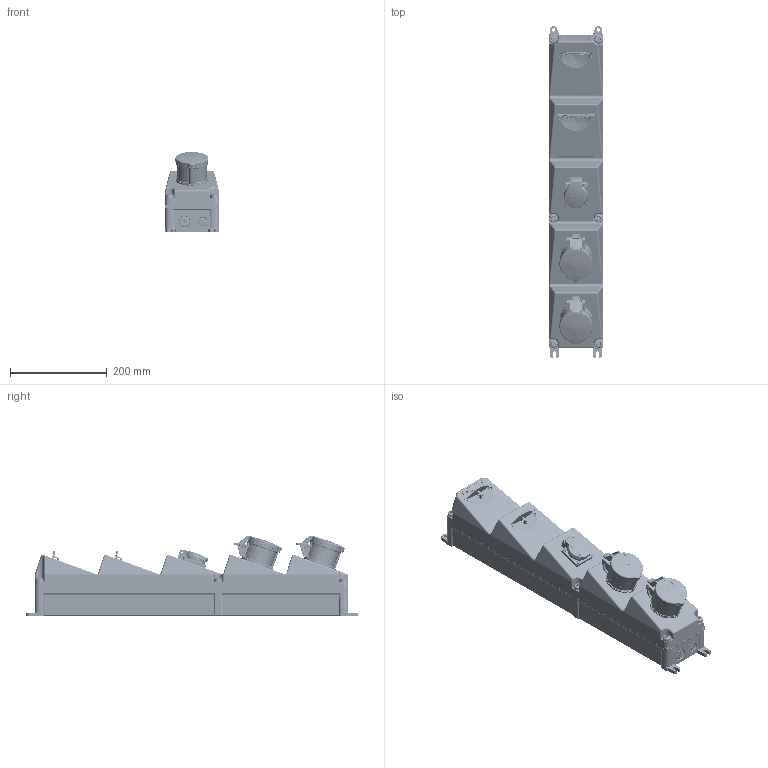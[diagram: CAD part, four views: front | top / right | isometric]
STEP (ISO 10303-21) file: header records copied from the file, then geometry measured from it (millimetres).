
FILE_DESCRIPTION((''),'2;1');
FILE_NAME('960007-1_ASM_1_ASM','2017-11-27T',('kremer'),('MENNEKES'),'PRO/ENGINEER BY PARAMETRIC TECHNOLOGY CORPORATION, 2015440','PRO/ENGINEER BY PARAMETRIC TECHNOLOGY CORPORATION, 2015440','');
FILE_SCHEMA(('AUTOMOTIVE_DESIGN { 1 0 10303 214 1 1 1 1 }'));
Products named in the file (7): S_SW_O_GRAU_AF0_1; LS_3POL_3TE_1; LS_1POL_1TE_1; S_FEN4_44_GRAU_1; RAPIDO_16_5_44_61_ROT_1; 4LOCH_SCHUKO_44_BLAU_1; 960007-1_ASM_1_ASM
Assembly tree (9 placements, depth 2):
  960007-1_ASM_1_ASM
    S_SW_O_GRAU_AF0_1
    LS_3POL_3TE_1  x2
    LS_1POL_1TE_1
    S_FEN4_44_GRAU_1  x2
    RAPIDO_16_5_44_61_ROT_1  x2
    4LOCH_SCHUKO_44_BLAU_1
Bounding box: 113.06 x 688.04 x 167.83 mm (x, y, z)
Volume: 8230260.8 mm3; surface area: 640058.3 mm2
Topology: 9 solids, 9 shells, 7964 faces, 21719 edges, 13776 vertices
Faces by surface type: plane 3024, cylinder 2530, bspline 1004, torus 910, cone 241, sphere 154, extrusion 101
Entity records: 306049 total; most frequent: CARTESIAN_POINT 89369, ORIENTED_EDGE 33202, DIRECTION 28600, PRESENTATION_STYLE_ASSIGNMENT 16858, EDGE_CURVE 16601, STYLED_ITEM 14221, CURVE_STYLE 12946, VERTEX_POINT 10551
